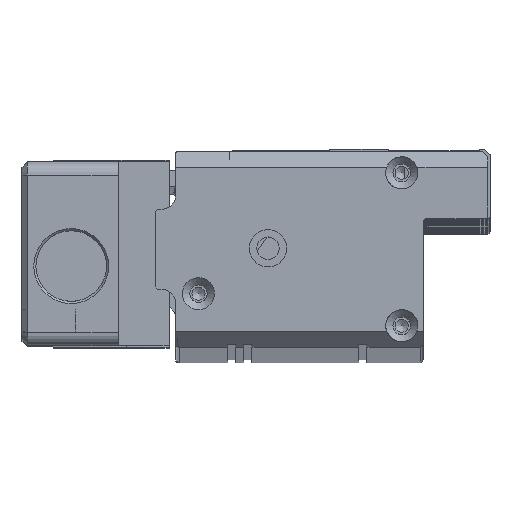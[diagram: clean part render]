
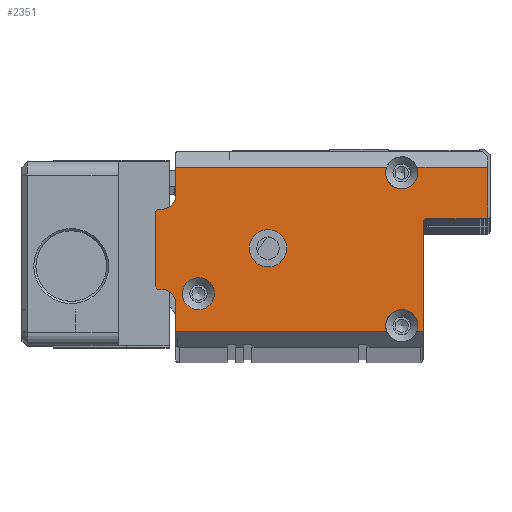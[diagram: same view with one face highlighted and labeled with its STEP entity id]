
A CAD part, top view. The second image highlights one B-rep face of the part: STEP entity #2351.
In plain terms, the highlighted planar face has unit normal (0, 0, 1).
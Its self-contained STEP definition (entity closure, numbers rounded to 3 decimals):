
#2351=ADVANCED_FACE('',(#3401,#3402,#3403),#3087,.T.);
#3087=PLANE('',#21205);
#3401=FACE_BOUND('',#4375,.T.);
#3402=FACE_BOUND('',#4376,.T.);
#3403=FACE_BOUND('',#4377,.T.);
#4375=EDGE_LOOP('',(#12862));
#4376=EDGE_LOOP('',(#12863,#12864,#12865,#12866,#12867,#12868,#12869,#12870,
#12871,#12872,#12873,#12874,#12875,#12876,#12877,#12878,#12879,#12880,#12881,
#12882));
#4377=EDGE_LOOP('',(#12883));
#6143=LINE('',#32525,#8015);
#6144=LINE('',#32527,#8016);
#6145=LINE('',#32531,#8017);
#6146=LINE('',#32535,#8018);
#6147=LINE('',#32537,#8019);
#6148=LINE('',#32541,#8020);
#6149=LINE('',#32543,#8021);
#6150=LINE('',#32547,#8022);
#6151=LINE('',#32551,#8023);
#6152=LINE('',#32555,#8024);
#6153=LINE('',#32559,#8025);
#6154=LINE('',#32561,#8026);
#8015=VECTOR('',#25928,1.);
#8016=VECTOR('',#25929,1.);
#8017=VECTOR('',#25932,1.);
#8018=VECTOR('',#25935,1.);
#8019=VECTOR('',#25936,1.);
#8020=VECTOR('',#25939,1.);
#8021=VECTOR('',#25940,1.);
#8022=VECTOR('',#25943,1.);
#8023=VECTOR('',#25946,1.);
#8024=VECTOR('',#25949,1.);
#8025=VECTOR('',#25952,1.);
#8026=VECTOR('',#25953,1.);
#12862=ORIENTED_EDGE('',*,*,#18340,.T.);
#12863=ORIENTED_EDGE('',*,*,#18341,.T.);
#12864=ORIENTED_EDGE('',*,*,#18342,.T.);
#12865=ORIENTED_EDGE('',*,*,#18343,.T.);
#12866=ORIENTED_EDGE('',*,*,#18344,.T.);
#12867=ORIENTED_EDGE('',*,*,#18345,.T.);
#12868=ORIENTED_EDGE('',*,*,#18346,.T.);
#12869=ORIENTED_EDGE('',*,*,#18347,.T.);
#12870=ORIENTED_EDGE('',*,*,#18348,.T.);
#12871=ORIENTED_EDGE('',*,*,#18349,.T.);
#12872=ORIENTED_EDGE('',*,*,#18350,.T.);
#12873=ORIENTED_EDGE('',*,*,#18351,.T.);
#12874=ORIENTED_EDGE('',*,*,#18352,.T.);
#12875=ORIENTED_EDGE('',*,*,#18353,.T.);
#12876=ORIENTED_EDGE('',*,*,#18354,.T.);
#12877=ORIENTED_EDGE('',*,*,#18355,.T.);
#12878=ORIENTED_EDGE('',*,*,#18356,.T.);
#12879=ORIENTED_EDGE('',*,*,#18357,.T.);
#12880=ORIENTED_EDGE('',*,*,#18358,.T.);
#12881=ORIENTED_EDGE('',*,*,#18359,.T.);
#12882=ORIENTED_EDGE('',*,*,#18360,.T.);
#12883=ORIENTED_EDGE('',*,*,#18361,.T.);
#15689=VERTEX_POINT('',#32521);
#15690=VERTEX_POINT('',#32523);
#15691=VERTEX_POINT('',#32524);
#15692=VERTEX_POINT('',#32526);
#15693=VERTEX_POINT('',#32528);
#15694=VERTEX_POINT('',#32530);
#15695=VERTEX_POINT('',#32532);
#15696=VERTEX_POINT('',#32534);
#15697=VERTEX_POINT('',#32536);
#15698=VERTEX_POINT('',#32538);
#15699=VERTEX_POINT('',#32540);
#15700=VERTEX_POINT('',#32542);
#15701=VERTEX_POINT('',#32544);
#15702=VERTEX_POINT('',#32546);
#15703=VERTEX_POINT('',#32548);
#15704=VERTEX_POINT('',#32550);
#15705=VERTEX_POINT('',#32552);
#15706=VERTEX_POINT('',#32554);
#15707=VERTEX_POINT('',#32556);
#15708=VERTEX_POINT('',#32558);
#15709=VERTEX_POINT('',#32560);
#15710=VERTEX_POINT('',#32563);
#18340=EDGE_CURVE('',#15689,#15689,#19608,.T.);
#18341=EDGE_CURVE('',#15690,#15691,#19609,.T.);
#18342=EDGE_CURVE('',#15691,#15692,#6143,.T.);
#18343=EDGE_CURVE('',#15692,#15693,#6144,.T.);
#18344=EDGE_CURVE('',#15693,#15694,#19610,.T.);
#18345=EDGE_CURVE('',#15694,#15695,#6145,.T.);
#18346=EDGE_CURVE('',#15695,#15696,#19611,.T.);
#18347=EDGE_CURVE('',#15696,#15697,#6146,.T.);
#18348=EDGE_CURVE('',#15697,#15698,#6147,.T.);
#18349=EDGE_CURVE('',#15698,#15699,#19612,.T.);
#18350=EDGE_CURVE('',#15699,#15700,#6148,.T.);
#18351=EDGE_CURVE('',#15700,#15701,#6149,.T.);
#18352=EDGE_CURVE('',#15701,#15702,#19613,.T.);
#18353=EDGE_CURVE('',#15702,#15703,#6150,.T.);
#18354=EDGE_CURVE('',#15703,#15704,#19614,.T.);
#18355=EDGE_CURVE('',#15704,#15705,#6151,.T.);
#18356=EDGE_CURVE('',#15705,#15706,#19615,.T.);
#18357=EDGE_CURVE('',#15706,#15707,#6152,.T.);
#18358=EDGE_CURVE('',#15707,#15708,#19616,.T.);
#18359=EDGE_CURVE('',#15708,#15709,#6153,.T.);
#18360=EDGE_CURVE('',#15709,#15690,#6154,.T.);
#18361=EDGE_CURVE('',#15710,#15710,#19617,.T.);
#19608=CIRCLE('',#21195,3.);
#19609=CIRCLE('',#21196,3.);
#19610=CIRCLE('',#21197,0.5);
#19611=CIRCLE('',#21198,0.5);
#19612=CIRCLE('',#21199,3.);
#19613=CIRCLE('',#21200,2.5);
#19614=CIRCLE('',#21201,0.5);
#19615=CIRCLE('',#21202,0.5);
#19616=CIRCLE('',#21203,2.5);
#19617=CIRCLE('',#21204,3.5);
#21195=AXIS2_PLACEMENT_3D('',#32520,#25924,#25925);
#21196=AXIS2_PLACEMENT_3D('',#32522,#25926,#25927);
#21197=AXIS2_PLACEMENT_3D('',#32529,#25930,#25931);
#21198=AXIS2_PLACEMENT_3D('',#32533,#25933,#25934);
#21199=AXIS2_PLACEMENT_3D('',#32539,#25937,#25938);
#21200=AXIS2_PLACEMENT_3D('',#32545,#25941,#25942);
#21201=AXIS2_PLACEMENT_3D('',#32549,#25944,#25945);
#21202=AXIS2_PLACEMENT_3D('',#32553,#25947,#25948);
#21203=AXIS2_PLACEMENT_3D('',#32557,#25950,#25951);
#21204=AXIS2_PLACEMENT_3D('',#32562,#25954,#25955);
#21205=AXIS2_PLACEMENT_3D('',#32564,#25956,#25957);
#25924=DIRECTION('',(0.,0.,-1.));
#25925=DIRECTION('',(-1.,0.,0.));
#25926=DIRECTION('',(0.,0.,-1.));
#25927=DIRECTION('',(-1.,0.,0.));
#25928=DIRECTION('',(1.,0.,0.));
#25929=DIRECTION('',(0.,1.,0.));
#25930=DIRECTION('',(0.,0.,-1.));
#25931=DIRECTION('',(1.,0.,0.));
#25932=DIRECTION('',(1.,0.,0.));
#25933=DIRECTION('',(0.,0.,1.));
#25934=DIRECTION('',(1.,0.,0.));
#25935=DIRECTION('',(0.,1.,0.));
#25936=DIRECTION('',(-1.,0.,0.));
#25937=DIRECTION('',(0.,0.,-1.));
#25938=DIRECTION('',(-1.,0.,0.));
#25939=DIRECTION('',(-1.,0.,0.));
#25940=DIRECTION('',(0.,-1.,0.));
#25941=DIRECTION('',(0.,0.,-1.));
#25942=DIRECTION('',(1.,0.,0.));
#25943=DIRECTION('',(-1.,0.,0.));
#25944=DIRECTION('',(0.,0.,1.));
#25945=DIRECTION('',(1.,0.,0.));
#25946=DIRECTION('',(0.,-1.,0.));
#25947=DIRECTION('',(0.,0.,1.));
#25948=DIRECTION('',(1.,0.,0.));
#25949=DIRECTION('',(1.,0.,0.));
#25950=DIRECTION('',(0.,0.,-1.));
#25951=DIRECTION('',(1.,0.,0.));
#25952=DIRECTION('',(0.,-1.,0.));
#25953=DIRECTION('',(1.,0.,0.));
#25954=DIRECTION('',(0.,0.,-1.));
#25955=DIRECTION('',(-1.,0.,0.));
#25956=DIRECTION('',(0.,0.,1.));
#25957=DIRECTION('',(-1.,0.,0.));
#32520=CARTESIAN_POINT('',(8.,-26.6,8.));
#32521=CARTESIAN_POINT('',(5.,-26.6,8.));
#32522=CARTESIAN_POINT('',(46.,-32.6,8.));
#32523=CARTESIAN_POINT('',(43.172,-33.6,8.));
#32524=CARTESIAN_POINT('',(48.828,-33.6,8.));
#32525=CARTESIAN_POINT('',(50.,-33.6,8.));
#32526=CARTESIAN_POINT('',(50.,-33.6,8.));
#32527=CARTESIAN_POINT('',(50.,-36.6,8.));
#32528=CARTESIAN_POINT('',(50.,-13.1,8.));
#32529=CARTESIAN_POINT('',(50.5,-13.1,8.));
#32530=CARTESIAN_POINT('',(50.5,-12.6,8.));
#32531=CARTESIAN_POINT('',(50.,-12.6,8.));
#32532=CARTESIAN_POINT('',(61.6,-12.6,8.));
#32533=CARTESIAN_POINT('',(61.6,-12.1,8.));
#32534=CARTESIAN_POINT('',(62.1,-12.1,8.));
#32535=CARTESIAN_POINT('',(62.1,-12.6,8.));
#32536=CARTESIAN_POINT('',(62.1,-3.,8.));
#32537=CARTESIAN_POINT('',(3.7,-3.,8.));
#32538=CARTESIAN_POINT('',(48.828,-3.,8.));
#32539=CARTESIAN_POINT('',(46.,-4.,8.));
#32540=CARTESIAN_POINT('',(43.172,-3.,8.));
#32541=CARTESIAN_POINT('',(3.7,-3.,8.));
#32542=CARTESIAN_POINT('',(3.7,-3.,8.));
#32543=CARTESIAN_POINT('',(3.7,0.,8.));
#32544=CARTESIAN_POINT('',(3.7,-8.3,8.));
#32545=CARTESIAN_POINT('',(1.2,-8.3,8.));
#32546=CARTESIAN_POINT('',(1.2,-10.8,8.));
#32547=CARTESIAN_POINT('',(3.7,-10.8,8.));
#32548=CARTESIAN_POINT('',(0.5,-10.8,8.));
#32549=CARTESIAN_POINT('',(0.5,-11.3,8.));
#32550=CARTESIAN_POINT('',(0.,-11.3,8.));
#32551=CARTESIAN_POINT('',(0.,-10.8,8.));
#32552=CARTESIAN_POINT('',(0.,-25.3,8.));
#32553=CARTESIAN_POINT('',(0.5,-25.3,8.));
#32554=CARTESIAN_POINT('',(0.5,-25.8,8.));
#32555=CARTESIAN_POINT('',(0.,-25.8,8.));
#32556=CARTESIAN_POINT('',(1.2,-25.8,8.));
#32557=CARTESIAN_POINT('',(1.2,-28.3,8.));
#32558=CARTESIAN_POINT('',(3.7,-28.3,8.));
#32559=CARTESIAN_POINT('',(3.7,-25.8,8.));
#32560=CARTESIAN_POINT('',(3.7,-33.6,8.));
#32561=CARTESIAN_POINT('',(50.,-33.6,8.));
#32562=CARTESIAN_POINT('',(21.,-18.1,8.));
#32563=CARTESIAN_POINT('',(17.5,-18.1,8.));
#32564=CARTESIAN_POINT('',(0.,0.,8.));
